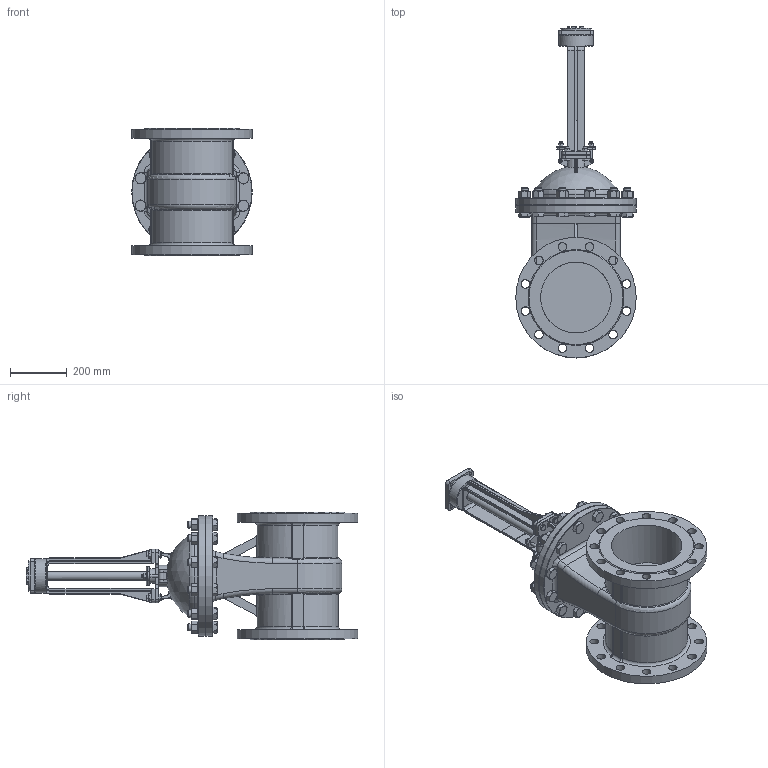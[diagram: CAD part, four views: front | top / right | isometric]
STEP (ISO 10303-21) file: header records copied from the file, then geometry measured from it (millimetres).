
FILE_DESCRIPTION(('STEP AP242'), '1');
FILE_NAME('GVWR2434M-2W-F-ÎÑÒ Çàäâèæêà êëèíîâàÿ ñ âûäâèæíûì øòîêîì Äó250 Ðó25', '2026-05-30T14:17:37', ('R2D2'), (''), 'C3D Converter', 'C3D Toolkit', '');
FILE_SCHEMA(('AP242_MANAGED_MODEL_BASED_3D_ENGINEERING_MIM_LF { 1 0 10303 442 1 1 4 }'));
Length unit declared in the file: millimetre
Products named in the file (1): GVWR2434M-2W-F-ОСТ
Bounding box: 425 x 1170.5 x 450 mm (x, y, z)
Volume: 42663452.6 mm3; surface area: 2191258.7 mm2
Topology: 1 solids, 13 shells, 1493 faces, 3680 edges, 2280 vertices
Faces by surface type: plane 664, cone 288, cylinder 273, extrusion 115, bspline 75, torus 69, sphere 5, revolution 4
Full cylindrical faces by diameter (mm): 8.75 x4, 10 x4, 12 x4, 12.5 x8, 18.75 x2, 20 x4, 25 x36, 30 x24, 31.25 x1, 34.875 x12, 37.5 x9, 45 x1, 50 x1, 108 x1, 120.592 x1, 250 x2, 300 x2, 425 x4
Entity records: 84893 total; most frequent: CARTESIAN_POINT 48367, ORIENTED_EDGE 6996, DIRECTION 5968, EDGE_CURVE 3498, VERTEX_POINT 2278, AXIS2_PLACEMENT_3D 2222, EDGE_LOOP 1868, FACE_BOUND 1645
